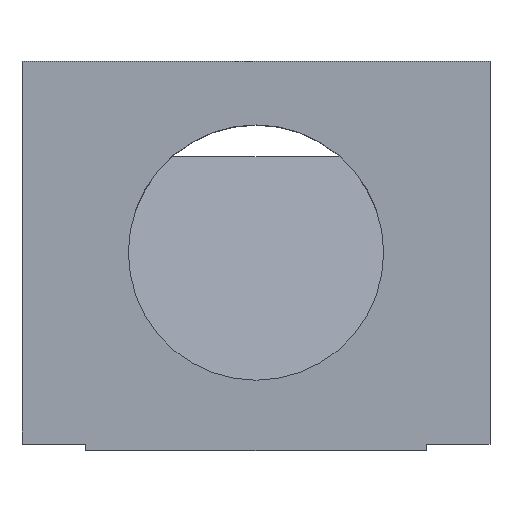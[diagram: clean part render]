
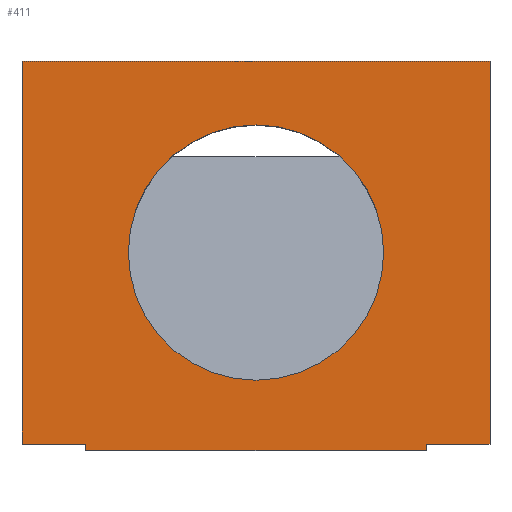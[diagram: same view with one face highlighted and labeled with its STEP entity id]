
A CAD part, top view. The second image highlights one B-rep face of the part: STEP entity #411.
In plain terms, the highlighted planar face has unit normal (0, 0, 1).
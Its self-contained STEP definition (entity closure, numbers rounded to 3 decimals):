
#23=CIRCLE('',#434,3.);
#53=ORIENTED_EDGE('',*,*,#122,.T.);
#54=ORIENTED_EDGE('',*,*,#108,.T.);
#55=ORIENTED_EDGE('',*,*,#106,.T.);
#56=ORIENTED_EDGE('',*,*,#123,.T.);
#57=ORIENTED_EDGE('',*,*,#124,.F.);
#58=ORIENTED_EDGE('',*,*,#125,.F.);
#59=ORIENTED_EDGE('',*,*,#114,.T.);
#60=ORIENTED_EDGE('',*,*,#115,.T.);
#61=ORIENTED_EDGE('',*,*,#118,.T.);
#106=EDGE_CURVE('',#146,#145,#171,.T.);
#108=EDGE_CURVE('',#147,#146,#173,.T.);
#114=EDGE_CURVE('',#150,#152,#179,.T.);
#115=EDGE_CURVE('',#152,#153,#180,.T.);
#118=EDGE_CURVE('',#153,#147,#183,.T.);
#122=EDGE_CURVE('',#156,#156,#23,.F.);
#123=EDGE_CURVE('',#145,#157,#186,.T.);
#124=EDGE_CURVE('',#158,#157,#187,.T.);
#125=EDGE_CURVE('',#150,#158,#188,.T.);
#145=VERTEX_POINT('',#529);
#146=VERTEX_POINT('',#531);
#147=VERTEX_POINT('',#535);
#150=VERTEX_POINT('',#542);
#152=VERTEX_POINT('',#546);
#153=VERTEX_POINT('',#550);
#156=VERTEX_POINT('',#563);
#157=VERTEX_POINT('',#565);
#158=VERTEX_POINT('',#567);
#171=LINE('',#530,#206);
#173=LINE('',#534,#208);
#179=LINE('',#547,#214);
#180=LINE('',#549,#215);
#183=LINE('',#555,#218);
#186=LINE('',#564,#221);
#187=LINE('',#566,#222);
#188=LINE('',#568,#223);
#206=VECTOR('',#452,1000.);
#208=VECTOR('',#456,1000.);
#214=VECTOR('',#464,1000.);
#215=VECTOR('',#467,1000.);
#218=VECTOR('',#472,1000.);
#221=VECTOR('',#483,1000.);
#222=VECTOR('',#484,1000.);
#223=VECTOR('',#485,1000.);
#246=EDGE_LOOP('',(#53));
#247=EDGE_LOOP('',(#54,#55,#56,#57,#58,#59,#60,#61));
#265=FACE_BOUND('',#246,.T.);
#266=FACE_BOUND('',#247,.T.);
#283=PLANE('',#433);
#411=ADVANCED_FACE('',(#265,#266),#283,.T.);
#433=AXIS2_PLACEMENT_3D('',#561,#479,#480);
#434=AXIS2_PLACEMENT_3D('',#562,#481,#482);
#452=DIRECTION('',(1.,0.,0.));
#456=DIRECTION('',(0.,-1.,0.));
#464=DIRECTION('',(1.,0.,0.));
#467=DIRECTION('',(0.,1.,0.));
#472=DIRECTION('',(-1.,0.,0.));
#479=DIRECTION('',(0.,0.,1.));
#480=DIRECTION('',(1.,0.,0.));
#481=DIRECTION('',(0.,0.,1.));
#482=DIRECTION('',(1.,0.,0.));
#483=DIRECTION('',(0.,-1.,0.));
#484=DIRECTION('',(-1.,0.,0.));
#485=DIRECTION('',(0.,-1.,0.));
#529=CARTESIAN_POINT('',(-4.,-4.5,0.));
#530=CARTESIAN_POINT('',(-5.5,-4.5,0.));
#531=CARTESIAN_POINT('',(-5.5,-4.5,0.));
#534=CARTESIAN_POINT('',(-5.5,4.5,0.));
#535=CARTESIAN_POINT('',(-5.5,4.5,0.));
#542=CARTESIAN_POINT('',(4.,-4.5,0.));
#546=CARTESIAN_POINT('',(5.5,-4.5,0.));
#547=CARTESIAN_POINT('',(-5.5,-4.5,0.));
#549=CARTESIAN_POINT('',(5.5,-4.5,0.));
#550=CARTESIAN_POINT('',(5.5,4.5,0.));
#555=CARTESIAN_POINT('',(5.5,4.5,0.));
#561=CARTESIAN_POINT('',(0.,0.,0.));
#562=CARTESIAN_POINT('',(0.,0.,0.));
#563=CARTESIAN_POINT('',(3.,0.,0.));
#564=CARTESIAN_POINT('',(-4.,-4.5,0.));
#565=CARTESIAN_POINT('',(-4.,-4.65,0.));
#566=CARTESIAN_POINT('',(4.,-4.65,0.));
#567=CARTESIAN_POINT('',(4.,-4.65,0.));
#568=CARTESIAN_POINT('',(4.,-4.5,0.));
